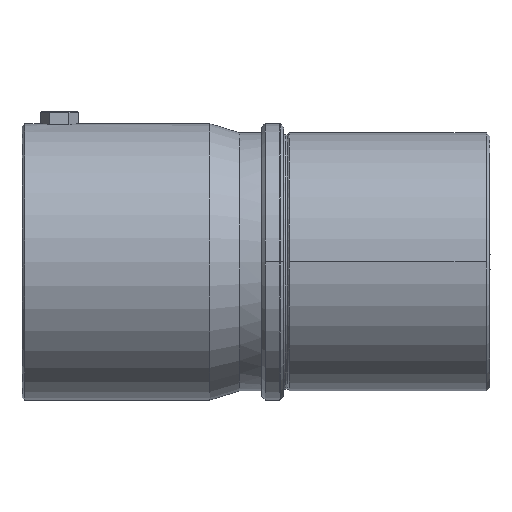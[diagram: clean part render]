
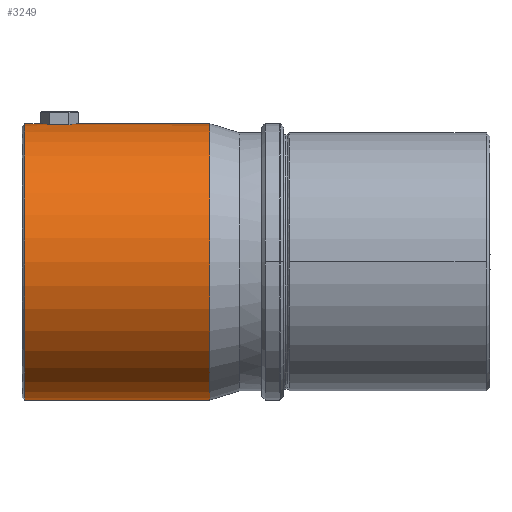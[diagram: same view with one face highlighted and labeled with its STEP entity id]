
A CAD part, left-side view. The second image highlights one B-rep face of the part: STEP entity #3249.
In plain terms, the highlighted cylindrical face has radius 37.5 mm (diameter 75 mm), a partial arc.
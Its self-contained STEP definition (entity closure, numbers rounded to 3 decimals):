
#34 = AXIS2_PLACEMENT_3D ( 'NONE', #8070, #8071, #8072 ) ;
#39 = VECTOR ( 'NONE', #8157, 1000. ) ;
#145 = CARTESIAN_POINT ( 'NONE',  ( -4.5, 119.45, 37.229 ) ) ;
#146 = CARTESIAN_POINT ( 'NONE',  ( -4.5, 114.254, 37.229 ) ) ;
#155 = EDGE_CURVE ( 'NONE', #9767, #5437, #985, .T. ) ;
#190 = EDGE_CURVE ( 'NONE', #5425, #5297, #5620, .T. ) ;
#192 = EDGE_CURVE ( 'NONE', #5477, #5297, #7270, .T. ) ;
#212 = EDGE_CURVE ( 'NONE', #5519, #5528, #3587, .T. ) ;
#218 = EDGE_CURVE ( 'NONE', #5437, #5425, #3488, .T. ) ;
#224 = VECTOR ( 'NONE', #3527, 1000. ) ;
#230 = VECTOR ( 'NONE', #3479, 1000. ) ;
#698 = CARTESIAN_POINT ( 'NONE',  ( 0., 76.011, -37.5 ) ) ;
#777 = CARTESIAN_POINT ( 'NONE',  ( 0., 76.011, 37.5 ) ) ;
#785 = CARTESIAN_POINT ( 'NONE',  ( 0., 111.655, 37.5 ) ) ;
#808 = CARTESIAN_POINT ( 'NONE',  ( 0., 126.264, -37.5 ) ) ;
#826 = CARTESIAN_POINT ( 'NONE',  ( 0., 126.264, 37.5 ) ) ;
#834 = CARTESIAN_POINT ( 'NONE',  ( 0., 122.048, 37.5 ) ) ;
#931 = CARTESIAN_POINT ( 'NONE',  ( 0., 122.048, 37.5 ) ) ;
#932 = CARTESIAN_POINT ( 'NONE',  ( -1.505, 121.179, 37.5 ) ) ;
#933 = CARTESIAN_POINT ( 'NONE',  ( -3.006, 120.312, 37.41 ) ) ;
#934 = CARTESIAN_POINT ( 'NONE',  ( -4.5, 119.45, 37.229 ) ) ;
#985 =( BOUNDED_CURVE ( )  B_SPLINE_CURVE ( 3, ( #7855, #7903, #7613, #7725 ),
 .UNSPECIFIED., .F., .F. ) 
 B_SPLINE_CURVE_WITH_KNOTS ( ( 4, 4 ),
 ( 4.592, 4.712 ),
 .UNSPECIFIED. ) 
 CURVE ( )  GEOMETRIC_REPRESENTATION_ITEM ( )  RATIONAL_B_SPLINE_CURVE ( ( 1., 0.999, 0.999, 1. ) ) 
 REPRESENTATION_ITEM ( '' )  );
#3249 = ADVANCED_FACE ( 'NONE', ( #5016 ), #5017, .T. ) ;
#3470 = CARTESIAN_POINT ( 'NONE',  ( 0., 126.264, 37.5 ) ) ;
#3479 = DIRECTION ( 'NONE',  ( 0., -1., 0. ) ) ;
#3488 = LINE ( 'NONE', #3470, #230 ) ;
#3527 = DIRECTION ( 'NONE',  ( 0., -1., 0. ) ) ;
#3584 = CARTESIAN_POINT ( 'NONE',  ( 0., 126.264, 37.5 ) ) ;
#3587 = LINE ( 'NONE', #3584, #224 ) ;
#5016 = FACE_OUTER_BOUND ( 'NONE', #9875, .T. ) ;
#5017 = CYLINDRICAL_SURFACE ( 'NONE', #6815, 37.5 ) ;
#5018 = CARTESIAN_POINT ( 'NONE',  ( 0., 126.264, 0. ) ) ;
#5019 = DIRECTION ( 'NONE',  ( 0., -1., 0. ) ) ;
#5020 = DIRECTION ( 'NONE',  ( 0., 0., -1. ) ) ;
#5258 =( BOUNDED_CURVE ( )  B_SPLINE_CURVE ( 3, ( #931, #932, #933, #934 ),
 .UNSPECIFIED., .F., .F. ) 
 B_SPLINE_CURVE_WITH_KNOTS ( ( 4, 4 ),
 ( 4.712, 4.833 ),
 .UNSPECIFIED. ) 
 CURVE ( )  GEOMETRIC_REPRESENTATION_ITEM ( )  RATIONAL_B_SPLINE_CURVE ( ( 1., 0.999, 0.999, 1. ) ) 
 REPRESENTATION_ITEM ( '' )  );
#5297 = VERTEX_POINT ( 'NONE', #698 ) ;
#5308 = ORIENTED_EDGE ( 'NONE', *, *, #6657, .F. ) ;
#5425 = VERTEX_POINT ( 'NONE', #777 ) ;
#5437 = VERTEX_POINT ( 'NONE', #785 ) ;
#5468 = ORIENTED_EDGE ( 'NONE', *, *, #6630, .F. ) ;
#5477 = VERTEX_POINT ( 'NONE', #808 ) ;
#5506 = ORIENTED_EDGE ( 'NONE', *, *, #212, .F. ) ;
#5519 = VERTEX_POINT ( 'NONE', #826 ) ;
#5528 = VERTEX_POINT ( 'NONE', #834 ) ;
#5545 = ORIENTED_EDGE ( 'NONE', *, *, #190, .F. ) ;
#5574 = ORIENTED_EDGE ( 'NONE', *, *, #155, .F. ) ;
#5593 = ORIENTED_EDGE ( 'NONE', *, *, #6669, .F. ) ;
#5620 = CIRCLE ( 'NONE', #5626, 37.5 ) ;
#5626 = AXIS2_PLACEMENT_3D ( 'NONE', #7300, #7301, #7274 ) ;
#5627 = VECTOR ( 'NONE', #7263, 1000. ) ;
#6630 = EDGE_CURVE ( 'NONE', #5528, #9766, #5258, .T. ) ;
#6657 = EDGE_CURVE ( 'NONE', #5477, #5519, #9648, .T. ) ;
#6669 = EDGE_CURVE ( 'NONE', #9766, #9767, #8155, .T. ) ;
#6815 = AXIS2_PLACEMENT_3D ( 'NONE', #5018, #5019, #5020 ) ;
#7262 = CARTESIAN_POINT ( 'NONE',  ( 0., 126.264, -37.5 ) ) ;
#7263 = DIRECTION ( 'NONE',  ( 0., -1., 0. ) ) ;
#7270 = LINE ( 'NONE', #7262, #5627 ) ;
#7274 = DIRECTION ( 'NONE',  ( 0., 0., -1. ) ) ;
#7300 = CARTESIAN_POINT ( 'NONE',  ( 0., 76.011, 0. ) ) ;
#7301 = DIRECTION ( 'NONE',  ( 0., -1., 0. ) ) ;
#7613 = CARTESIAN_POINT ( 'NONE',  ( -1.505, 112.524, 37.5 ) ) ;
#7725 = CARTESIAN_POINT ( 'NONE',  ( 0., 111.655, 37.5 ) ) ;
#7855 = CARTESIAN_POINT ( 'NONE',  ( -4.5, 114.254, 37.229 ) ) ;
#7903 = CARTESIAN_POINT ( 'NONE',  ( -3.006, 113.391, 37.41 ) ) ;
#8070 = CARTESIAN_POINT ( 'NONE',  ( 0., 126.264, 0. ) ) ;
#8071 = DIRECTION ( 'NONE',  ( 0., 1., 0. ) ) ;
#8072 = DIRECTION ( 'NONE',  ( 0., 0., -1. ) ) ;
#8155 = LINE ( 'NONE', #8156, #39 ) ;
#8156 = CARTESIAN_POINT ( 'NONE',  ( -4.5, 101.138, 37.229 ) ) ;
#8157 = DIRECTION ( 'NONE',  ( 0., -1., 0. ) ) ;
#9648 = CIRCLE ( 'NONE', #34, 37.5 ) ;
#9766 = VERTEX_POINT ( 'NONE', #145 ) ;
#9767 = VERTEX_POINT ( 'NONE', #146 ) ;
#9875 = EDGE_LOOP ( 'NONE', ( #5506, #5308, #10179, #5545, #10146, #5574, #5593, #5468 ) ) ;
#10146 = ORIENTED_EDGE ( 'NONE', *, *, #218, .F. ) ;
#10179 = ORIENTED_EDGE ( 'NONE', *, *, #192, .T. ) ;
